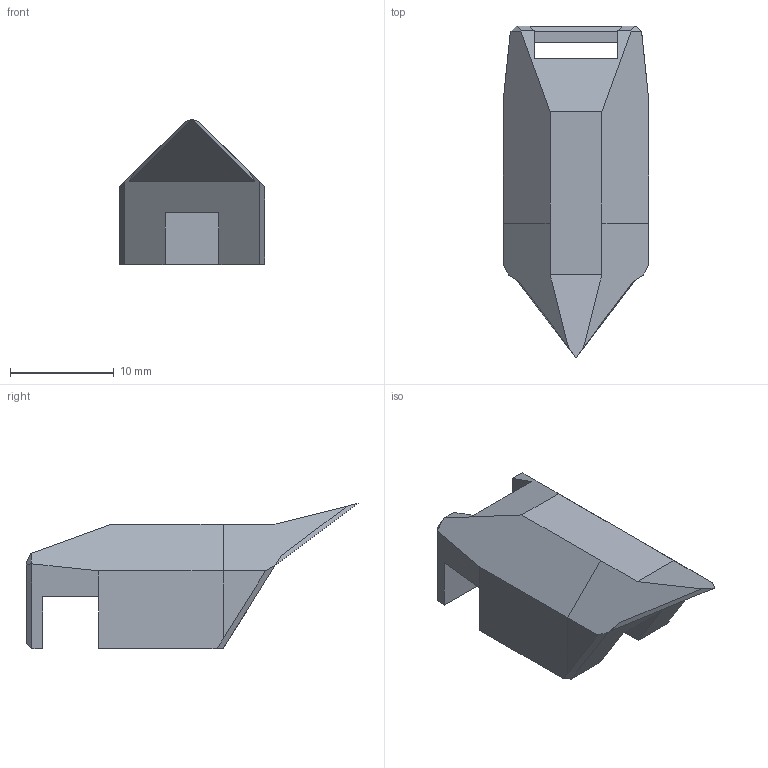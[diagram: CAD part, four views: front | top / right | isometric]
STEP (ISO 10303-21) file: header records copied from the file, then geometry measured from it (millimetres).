
FILE_DESCRIPTION (( 'STEP AP214' ), '1' );
FILE_NAME ('Back Armor.STEP', '2023-12-23T22:28:39', ( '' ), ( '' ), 'SwSTEP 2.0', 'SolidWorks 2023', '' );
FILE_SCHEMA (( 'AUTOMOTIVE_DESIGN' ));
Length unit declared in the file: millimetre
Products named in the file (1): Back Armor
Bounding box: 14 x 32 x 14 mm (x, y, z)
Volume: 2219.1 mm3; surface area: 1574.7 mm2
Topology: 1 solids, 1 shells, 49 faces, 135 edges, 86 vertices
Faces by surface type: plane 48, cylinder 1
Entity records: 1548 total; most frequent: CARTESIAN_POINT 277, ORIENTED_EDGE 270, DIRECTION 239, EDGE_CURVE 135, LINE 127, VECTOR 127, VERTEX_POINT 86, AXIS2_PLACEMENT_3D 56
